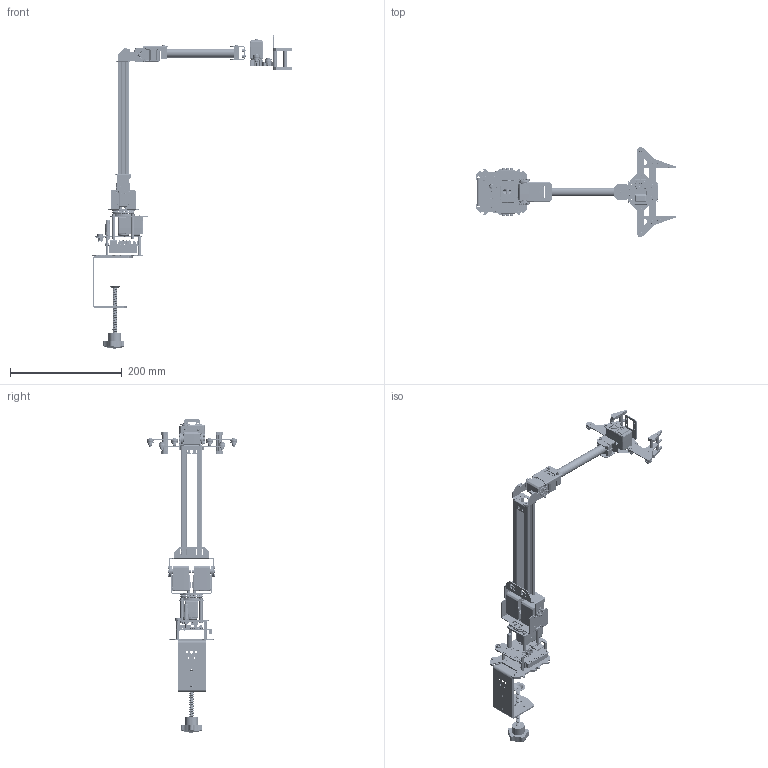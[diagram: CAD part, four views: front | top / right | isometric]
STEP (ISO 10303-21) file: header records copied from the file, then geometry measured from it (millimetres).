
FILE_DESCRIPTION(/* description */ (''),/* implementation_level */ '2;1');
FILE_NAME(/* name */ 'RoArm-M2-GA.step',/* time_stamp */ '2026-06-17T19:12:44+08:00',/* author */ (''),/* organization */ (''),/* preprocessor_version */ 'ST-DEVELOPER v20.1',/* originating_system */ 'Autodesk Translation Framework v15.8.0.0',/* authorisation */ '');
FILE_SCHEMA (('AUTOMOTIVE_DESIGN { 1 0 10303 214 3 1 1 }'));
Length unit declared in the file: millimetre
Products named in the file (740): RoArm-M2-S ASM-TYPE-0(SP)v1; AL-SHOULDER; AL-ELBOW-B; AL-BASE; AL-轻量化底座-A; AL-舵机型材底座-51105轴承定位片; ST3215; 圆形隔离柱 M3*35; General Driver for Robots(1); Board; C7; 432138512; 432138512_1; 432124816; C20; 432124816_1; 432138512_2; 432138512_3; C21; 432124816_2; 432138512_4; 432138512_5; R15; 432124816_3; 432138512_6; 432138512_7; H7; U11; 804367824; U10; TSSOP14; TSSOP14_ËÜÌå; Òý½Å_0.9; LOGOԲ0.25; U9; 676625696; Extruded (6); 756979608; Cylinder; U8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
Assembly tree (1318 placements, depth 5):
  RoArm-M2-S ASM-TYPE-0(SP)v1
    AL-SHOULDER
    AL-ELBOW-B
    AL-BASE
    AL-轻量化底座-A
    AL-舵机型材底座-51105轴承定位片
    ST3215
      ZK_122
      SG-ZIJI_15
      XG-ZIJI_16
      MOTOR-1723_3
      PCB-CHAZUO_92
      GE_27
      金属舵盘（驱动）
      金属舵盘（从动）
    圆形隔离柱 M3*35  x4
    General Driver for Robots(1)
      Board
      C7
        432138512
          Extruded
        432138512_1
          Extruded
        432124816
          Extruded (1)
      C20
        432124816_1
          Extruded (1)
        432138512_2
          Extruded
        432138512_3
          Extruded
      C21
        432124816_2
          Extruded (1)
        432138512_4
          Extruded
        432138512_5
          Extruded
      R15
        432124816_3
          Extruded (1)
        432138512_6
          Extruded
        432138512_7
          Extruded
      H7
        User_Library-DS1066-04-4MSV6
      U11
        804367824
          Extruded (5)
      U10
        TSSOP14
          TSSOP14_ËÜÌå
          Òý½Å_0.9  x14
          LOGOԲ0.25
      U9
        676625696
          Extruded (6)
        756979608
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Bounding box: 357.7 x 161.4 x 559.97 mm (x, y, z)
Volume: 445000 mm3; surface area: 356645.4 mm2
Topology: 792 solids, 866 shells, 23496 faces, 61164 edges, 39872 vertices
Faces by surface type: plane 13497, cylinder 7894, bspline 1065, torus 502, cone 365, sphere 173
Full cylindrical faces by diameter (mm): 0.013 x1, 0.1 x4, 0.2 x2, 0.5 x5, 0.6 x4, 0.65 x1, 0.7 x12, 0.75 x1, 0.762 x4, 0.8 x12, 0.889 x170, 1 x12, 1.2 x5, 1.5 x6, 1.6 x70, 1.7 x6, 1.9 x8, 2 x30, 2.1 x1, 2.2 x47, 2.4 x20, 2.5 x183, 2.6 x9, 3 x119, 3.2 x51, 3.35 x14, 3.4 x4, 3.5 x15, 3.6 x8, 3.678 x10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
Entity records: 425700 total; most frequent: CARTESIAN_POINT 167584, DIRECTION 52551, ORIENTED_EDGE 50384, EDGE_CURVE 25192, AXIS2_PLACEMENT_3D 18003, VERTEX_POINT 16582, LINE 16545, VECTOR 16545
